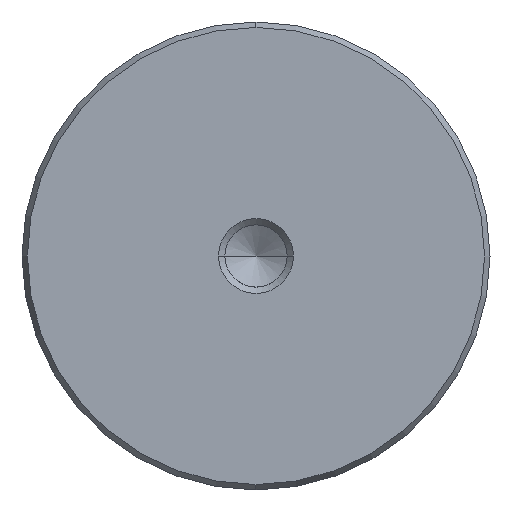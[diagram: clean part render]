
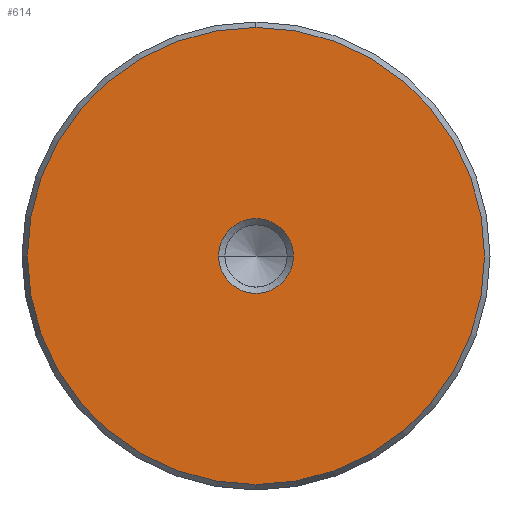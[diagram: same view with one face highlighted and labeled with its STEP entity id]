
A CAD part, left-side view. The second image highlights one B-rep face of the part: STEP entity #614.
In plain terms, the highlighted planar face has unit normal (-1, 0, 0).
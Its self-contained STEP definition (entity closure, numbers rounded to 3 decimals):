
#528=CARTESIAN_POINT('Vertex',(0.,0.,-24.423)) ;
#531=CARTESIAN_POINT('Axis2P3D Location',(0.,0.,0.)) ;
#535=CARTESIAN_POINT('Vertex',(0.,24.423,0.)) ;
#538=CARTESIAN_POINT('Axis2P3D Location',(0.,0.,0.)) ;
#542=CARTESIAN_POINT('Vertex',(0.,0.,24.423)) ;
#564=CARTESIAN_POINT('Axis2P3D Location',(0.,0.,0.)) ;
#568=CARTESIAN_POINT('Vertex',(0.,-24.423,0.)) ;
#571=CARTESIAN_POINT('Axis2P3D Location',(0.,0.,0.)) ;
#585=CARTESIAN_POINT('Axis2P3D Location',(0.,0.,0.)) ;
#596=CARTESIAN_POINT('Axis2P3D Location',(0.,0.,0.)) ;
#600=CARTESIAN_POINT('Vertex',(0.,4.,0.)) ;
#602=CARTESIAN_POINT('Vertex',(0.,-4.,0.)) ;
#605=CARTESIAN_POINT('Axis2P3D Location',(0.,0.,0.)) ;
#532=DIRECTION('Axis2P3D Direction',(1.,0.,-0.)) ;
#539=DIRECTION('Axis2P3D Direction',(1.,0.,-0.)) ;
#565=DIRECTION('Axis2P3D Direction',(1.,0.,-0.)) ;
#572=DIRECTION('Axis2P3D Direction',(1.,0.,-0.)) ;
#586=DIRECTION('Axis2P3D Direction',(1.,0.,-0.)) ;
#587=DIRECTION('Axis2P3D XDirection',(-0.,0.,-1.)) ;
#597=DIRECTION('Axis2P3D Direction',(1.,0.,-0.)) ;
#606=DIRECTION('Axis2P3D Direction',(1.,0.,-0.)) ;
#533=AXIS2_PLACEMENT_3D('Circle Axis2P3D',#531,#532,$) ;
#540=AXIS2_PLACEMENT_3D('Circle Axis2P3D',#538,#539,$) ;
#566=AXIS2_PLACEMENT_3D('Circle Axis2P3D',#564,#565,$) ;
#573=AXIS2_PLACEMENT_3D('Circle Axis2P3D',#571,#572,$) ;
#588=AXIS2_PLACEMENT_3D('Plane Axis2P3D',#585,#586,#587) ;
#598=AXIS2_PLACEMENT_3D('Circle Axis2P3D',#596,#597,$) ;
#607=AXIS2_PLACEMENT_3D('Circle Axis2P3D',#605,#606,$) ;
#591=ORIENTED_EDGE('',*,*,#537,.F.) ;
#592=ORIENTED_EDGE('',*,*,#575,.F.) ;
#593=ORIENTED_EDGE('',*,*,#570,.F.) ;
#594=ORIENTED_EDGE('',*,*,#544,.F.) ;
#611=ORIENTED_EDGE('',*,*,#604,.T.) ;
#612=ORIENTED_EDGE('',*,*,#609,.T.) ;
#613=FACE_BOUND('',#610,.T.) ;
#614=ADVANCED_FACE('720-50x280',(#595,#613),#589,.F.) ;
#534=CIRCLE('generated circle',#533,24.423) ;
#541=CIRCLE('generated circle',#540,24.423) ;
#567=CIRCLE('generated circle',#566,24.423) ;
#574=CIRCLE('generated circle',#573,24.423) ;
#599=CIRCLE('generated circle',#598,4.) ;
#608=CIRCLE('generated circle',#607,4.) ;
#537=EDGE_CURVE('',#529,#536,#534,.T.) ;
#544=EDGE_CURVE('',#536,#543,#541,.T.) ;
#570=EDGE_CURVE('',#543,#569,#567,.T.) ;
#575=EDGE_CURVE('',#569,#529,#574,.T.) ;
#604=EDGE_CURVE('',#601,#603,#599,.T.) ;
#609=EDGE_CURVE('',#603,#601,#608,.T.) ;
#590=EDGE_LOOP('',(#591,#592,#593,#594)) ;
#610=EDGE_LOOP('',(#611,#612)) ;
#595=FACE_OUTER_BOUND('',#590,.T.) ;
#589=PLANE('Plane',#588) ;
#529=VERTEX_POINT('',#528) ;
#536=VERTEX_POINT('',#535) ;
#543=VERTEX_POINT('',#542) ;
#569=VERTEX_POINT('',#568) ;
#601=VERTEX_POINT('',#600) ;
#603=VERTEX_POINT('',#602) ;
